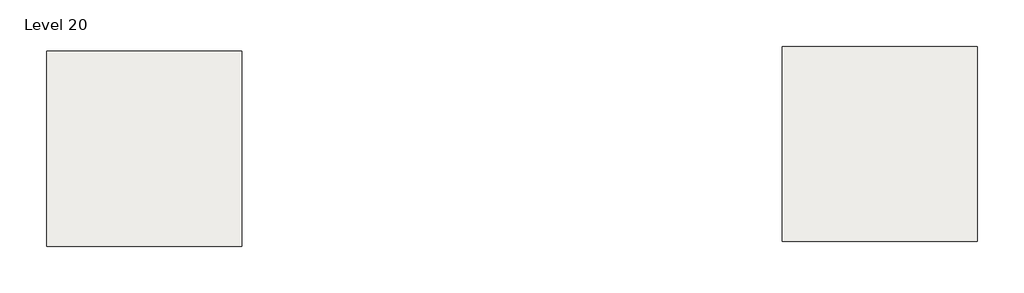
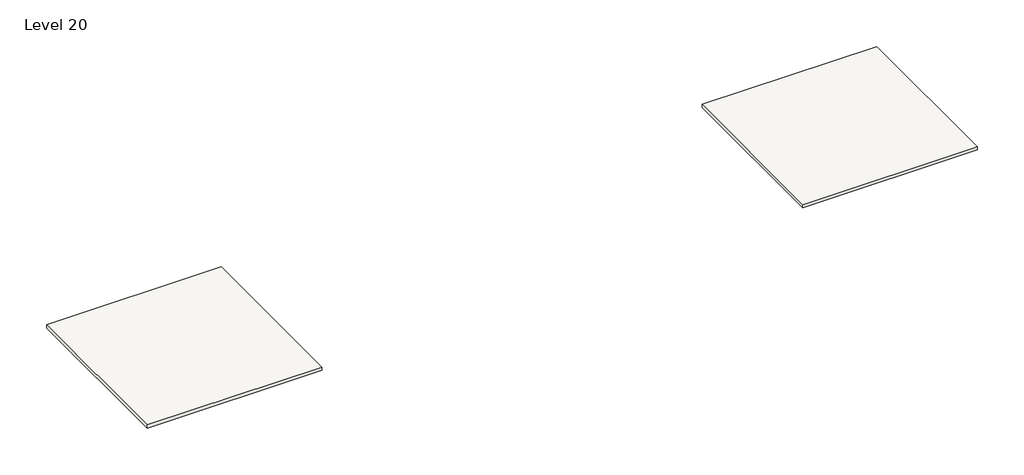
# One storey: 2 slabs.
"""IFC4 building model written with IfcOpenShell, lengths in millimetres."""

from ifc_helpers import new_model, si_unit, frame, origin, place, context, project, spatial, polyline, outline, extrude, element, save

model = new_model("IFC4")

# Units and contexts
model_context = context("Model", 3, world=origin())
ifc_project = project(units=[si_unit("LENGTHUNIT", "METRE", prefix="MILLI")], contexts=[model_context])

# Site, building, storey
site = spatial("IfcSite", under=ifc_project)
building = spatial("IfcBuilding", under=site)
storey = spatial("IfcBuildingStorey", under=building, Name="Level 20", Elevation=57912.0)

# Slabs
placement = place(None, origin())
element("IfcSlab", 1, ObjectType="Generic - 12\"", at=placement, inside=storey, context=model_context, shape_type="SweptSolid", body=[
    extrude(outline(polyline([(-5599.4161695, 9497.9495511), (-5599.4161695, -5742.0504489), (-20839.4161695, -5742.0504489), (-20839.4161695, 9497.9495511), (-5599.4161695, 9497.9495511)])), frame((0.0, 0.0, 57607.2), z_axis=(0.0, 0.0, 1.0), x_axis=(1.0, 0.0, 0.0)), (0.0, 0.0, 1.0), 304.8),
])
element("IfcSlab", 2, ObjectType="Generic - 12\"", at=placement, inside=storey, context=model_context, shape_type="SweptSolid", body=[
    extrude(outline(polyline([(51834.2903978, 9875.0904402), (51834.2903978, -5364.9095598), (36594.2903978, -5364.9095598), (36594.2903978, 9875.0904402), (51834.2903978, 9875.0904402)])), frame((0.0, 0.0, 57607.2), z_axis=(0.0, 0.0, 1.0), x_axis=(1.0, 0.0, 0.0)), (0.0, 0.0, 1.0), 304.8),
])

save(model, "model.ifc")
